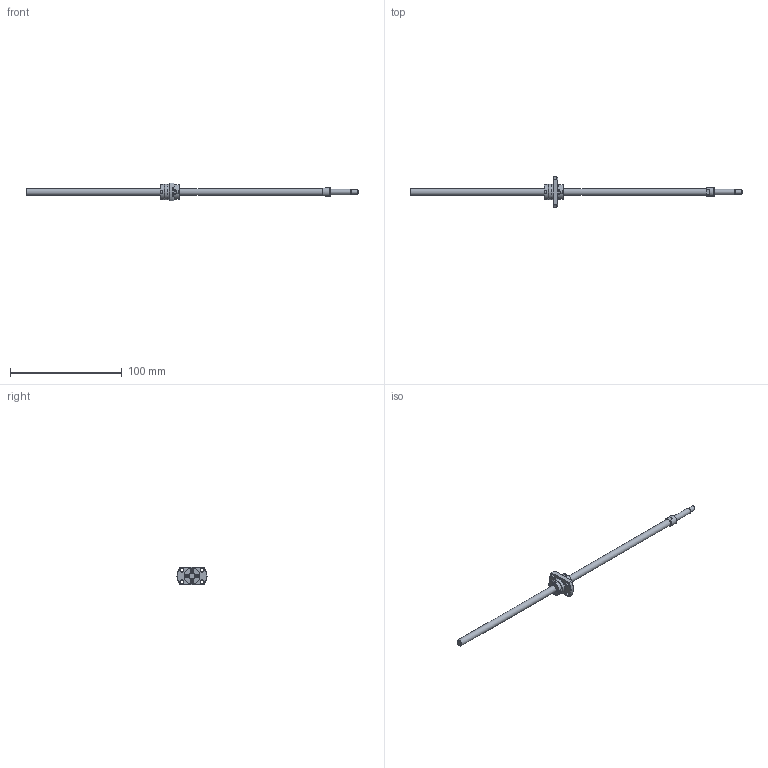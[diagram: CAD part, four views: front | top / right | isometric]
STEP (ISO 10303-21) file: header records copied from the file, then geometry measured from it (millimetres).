
FILE_DESCRIPTION(/* description */ ('STEP AP214'),/* implementation_level */ '2;1');
FILE_NAME(/* name */ 'SRT0606-261R297C7A0X(120Processing)',/* time_stamp */ '2026-08-04T17:56:54+02:00',/* author */ ('License CC BY-ND 4.0'),/* organization */ ('CADENAS'),/* preprocessor_version */ 'ST-DEVELOPER v20',/* originating_system */ 'PARTsolutions',/* authorisation */ ' ');
FILE_SCHEMA (('AUTOMOTIVE_DESIGN {1 0 10303 214 3 1 1}'));
Length unit declared in the file: millimetre
Products named in the file (3): SRT0606-261R297C7A0X(120Processing); SRT0606-261R335ACt7Processing22Shaft; SRT0606Nut
Assembly tree (2 placements, depth 2):
  SRT0606-261R297C7A0X(120Processing)
    SRT0606-261R335ACt7Processing22Shaft
    SRT0606Nut
Bounding box: 297 x 27 x 16 mm (x, y, z)
Volume: 11132.8 mm3; surface area: 7912.3 mm2
Topology: 2 solids, 2 shells, 149 faces, 358 edges, 237 vertices
Faces by surface type: plane 106, cylinder 32, cone 10, torus 1
Full cylindrical faces by diameter (mm): 3 x8, 3.4 x4, 4 x1, 5 x1, 6 x2, 8 x1, 13.6 x1, 13.8 x2, 14 x2
Entity records: 4237 total; most frequent: CARTESIAN_POINT 732, DIRECTION 712, ORIENTED_EDGE 648, EDGE_CURVE 324, AXIS2_PLACEMENT_3D 244, VERTEX_POINT 232, LINE 224, VECTOR 224
